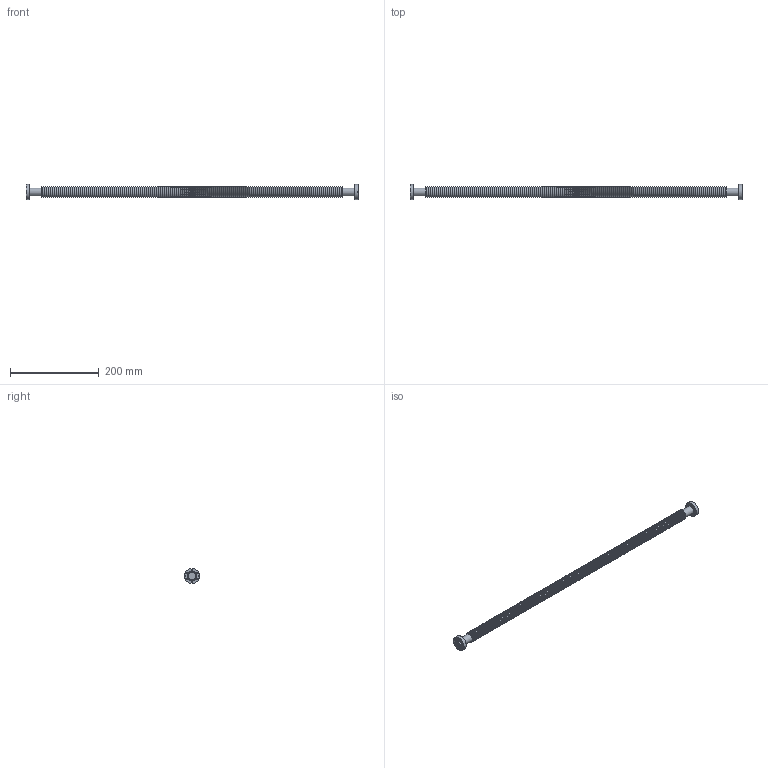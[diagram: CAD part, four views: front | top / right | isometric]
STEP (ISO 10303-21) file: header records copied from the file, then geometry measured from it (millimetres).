
FILE_DESCRIPTION( ( 'Unknown' ), '1' );
FILE_NAME( 'X:/Daten ( aktueller Bestand )/Projekte und Zeichnungen/Solid Edge/STP-Dateien/CF-Teile/7931RU.stp', 'Unknown', ( 'Unknown' ), ( 'Unknown' ), 'PSStep 14.0', 'Unknown', ' ' );
FILE_SCHEMA( ( 'AUTOMOTIVE_DESIGN { 1 0 10303 214 1 1 1 1 }' ) );
Length unit declared in the file: millimetre
Products named in the file (7): 7511R; 7511R-1; 7511R-2; Assem1; 7901R-1; 7511F; 7931R-2
Assembly tree (7 placements, depth 3):
  Assem1
    7901R-1  x2
    7511F
    7931R-2
    7511R
      7511R-1
      7511R-2
Bounding box: 750 x 34 x 34 mm (x, y, z)
Volume: 219384.4 mm3; surface area: 99574.4 mm2
Topology: 6 solids, 6 shells, 661 faces, 1039 edges, 696 vertices
Faces by surface type: plane 322, torus 303, cylinder 32, cone 4
Full cylindrical faces by diameter (mm): 4.3 x12, 16 x2, 16.5 x2, 18 x4, 18.1 x1, 19.6 x2, 21 x1, 21.3 x1, 21.4 x1, 34 x2
Entity records: 18842 total; most frequent: DIRECTION 2666, CARTESIAN_POINT 2122, ORIENTED_EDGE 1362, AXIS2_PLACEMENT_3D 1329, EDGE_LOOP 1324, FACE_OUTER_BOUND 983, EDGE_CURVE 681, VERTEX_POINT 673
